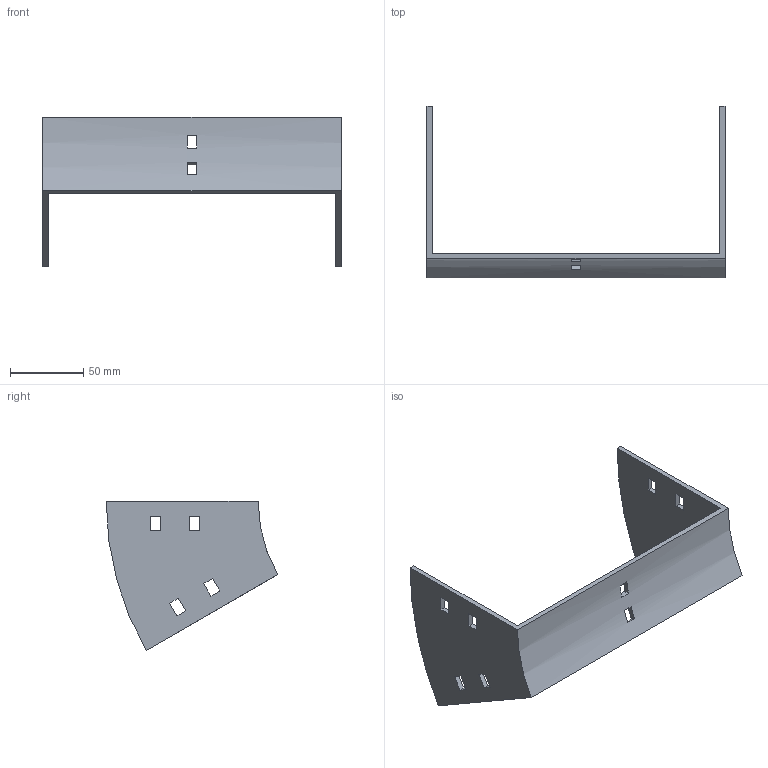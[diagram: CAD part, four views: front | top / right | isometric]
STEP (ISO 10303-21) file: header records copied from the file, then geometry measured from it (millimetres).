
FILE_DESCRIPTION (( 'STEP AP214' ), '1' );
FILE_NAME ('35B1D200.step', '2025-02-21T09:24:26', ( '' ), ( '' ), 'SwSTEP 2.0', 'SolidWorks 2023', '' );
FILE_SCHEMA (( 'AUTOMOTIVE_DESIGN' ));
Length unit declared in the file: millimetre
Products named in the file (1): 35B1D200
Bounding box: 204 x 117.4 x 102 mm (x, y, z)
Volume: 92298.1 mm3; surface area: 57490.1 mm2
Topology: 1 solids, 1 shells, 50 faces, 144 edges, 96 vertices
Faces by surface type: plane 46, cylinder 4
Entity records: 1687 total; most frequent: CARTESIAN_POINT 291, ORIENTED_EDGE 288, DIRECTION 262, EDGE_CURVE 144, VECTOR 128, LINE 128, VERTEX_POINT 96, EDGE_LOOP 70
